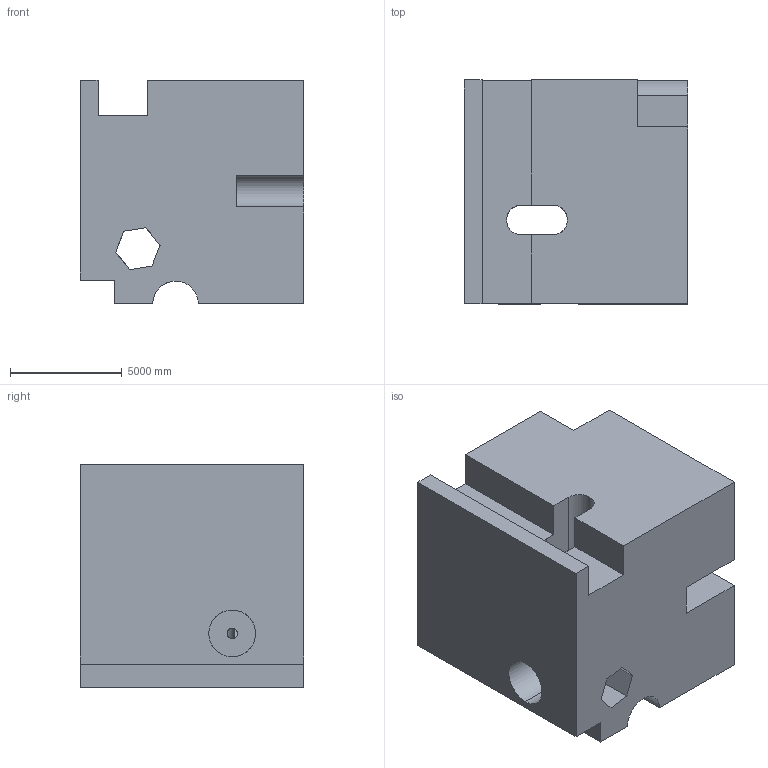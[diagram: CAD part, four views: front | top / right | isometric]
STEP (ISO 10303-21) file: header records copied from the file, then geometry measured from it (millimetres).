
FILE_DESCRIPTION (( 'STEP AP203' ), '1' );
FILE_NAME ('160.STEP', '2022-08-31T14:26:14', ( 'user' ), ( '' ), 'SwSTEP 2.0', 'SolidWorks 2021', '' );
FILE_SCHEMA (( 'CONFIG_CONTROL_DESIGN' ));
Length unit declared in the file: centimetre
Products named in the file (1): 160
Bounding box: 10000 x 10000 x 10000 mm (x, y, z)
Volume: 834660150933 mm3; surface area: 769787616.9 mm2
Topology: 1 solids, 1 shells, 56 faces, 171 edges, 114 vertices
Faces by surface type: plane 41, cylinder 15
Entity records: 2636 total; most frequent: CARTESIAN_POINT 1059, ORIENTED_EDGE 342, DIRECTION 278, EDGE_CURVE 171, LINE 122, VECTOR 122, VERTEX_POINT 114, AXIS2_PLACEMENT_3D 78
